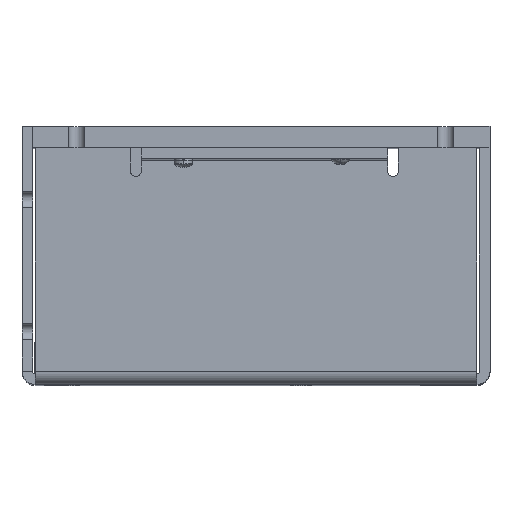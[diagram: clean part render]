
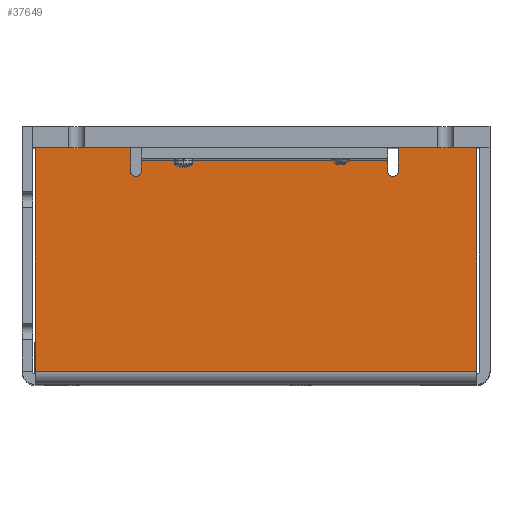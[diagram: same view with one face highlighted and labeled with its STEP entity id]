
A CAD part, top view. The second image highlights one B-rep face of the part: STEP entity #37649.
In plain terms, the highlighted planar face has unit normal (0, 0, 1).
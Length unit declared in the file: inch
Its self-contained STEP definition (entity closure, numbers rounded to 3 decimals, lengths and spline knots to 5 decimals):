
#34450=DIRECTION('',(0.,-1.,0.));
#34451=VECTOR('',#34450,2.652);
#34452=CARTESIAN_POINT('',(5.232,1.9951,7.29));
#34453=LINE('',#34452,#34451);
#34479=DIRECTION('',(-1.,0.,0.));
#34480=VECTOR('',#34479,5.237);
#34481=CARTESIAN_POINT('',(5.232,-0.6569,7.29));
#34482=LINE('',#34481,#34480);
#34516=DIRECTION('',(0.,1.,0.));
#34517=VECTOR('',#34516,2.652);
#34518=CARTESIAN_POINT('',(-0.005,-0.6569,7.29));
#34519=LINE('',#34518,#34517);
#34597=DIRECTION('',(1.,0.,0.));
#34598=VECTOR('',#34597,1.133);
#34599=CARTESIAN_POINT('',(-0.005,1.9951,7.29));
#34600=LINE('',#34599,#34598);
#34662=DIRECTION('',(1.,0.,0.));
#34663=VECTOR('',#34662,2.922);
#34664=CARTESIAN_POINT('',(1.253,1.8401,7.29));
#34665=LINE('',#34664,#34663);
#34676=DIRECTION('',(0.,1.,0.));
#34677=VECTOR('',#34676,0.28);
#34678=CARTESIAN_POINT('',(1.128,1.7151,7.29));
#34679=LINE('',#34678,#34677);
#34683=CARTESIAN_POINT('',(1.1905,1.7151,7.29));
#34684=DIRECTION('',(0.,0.,-1.));
#34685=DIRECTION('',(1.,0.,0.));
#34686=AXIS2_PLACEMENT_3D('',#34683,#34684,#34685);
#34691=DIRECTION('',(0.,-1.,0.));
#34692=VECTOR('',#34691,0.125);
#34693=CARTESIAN_POINT('',(1.253,1.8401,7.29));
#34694=LINE('',#34693,#34692);
#34698=DIRECTION('',(0.,1.,0.));
#34699=VECTOR('',#34698,0.125);
#34700=CARTESIAN_POINT('',(4.175,1.7151,7.29));
#34701=LINE('',#34700,#34699);
#34705=CARTESIAN_POINT('',(4.2375,1.7151,7.29));
#34706=DIRECTION('',(0.,0.,-1.));
#34707=DIRECTION('',(1.,0.,0.));
#34708=AXIS2_PLACEMENT_3D('',#34705,#34706,#34707);
#34713=DIRECTION('',(0.,-1.,0.));
#34714=VECTOR('',#34713,0.28);
#34715=CARTESIAN_POINT('',(4.3,1.9951,7.29));
#34716=LINE('',#34715,#34714);
#34762=DIRECTION('',(1.,0.,0.));
#34763=VECTOR('',#34762,0.932);
#34764=CARTESIAN_POINT('',(4.3,1.9951,7.29));
#34765=LINE('',#34764,#34763);
#36224=CARTESIAN_POINT('',(1.128,1.9951,7.29));
#36226=VERTEX_POINT('',#36224);
#36278=CARTESIAN_POINT('',(1.128,1.7151,7.29));
#36280=VERTEX_POINT('',#36278);
#36299=CARTESIAN_POINT('',(4.3,1.7151,7.29));
#36300=VERTEX_POINT('',#36299);
#36301=CARTESIAN_POINT('',(4.3,1.9951,7.29));
#36302=VERTEX_POINT('',#36301);
#36343=CARTESIAN_POINT('',(-0.005,1.9951,7.29));
#36345=VERTEX_POINT('',#36343);
#36389=CARTESIAN_POINT('',(1.253,1.8401,7.29));
#36390=CARTESIAN_POINT('',(4.175,1.8401,7.29));
#36391=VERTEX_POINT('',#36389);
#36392=VERTEX_POINT('',#36390);
#36415=CARTESIAN_POINT('',(5.232,1.9951,7.29));
#36416=VERTEX_POINT('',#36415);
#36516=CARTESIAN_POINT('',(4.175,1.7151,7.29));
#36518=VERTEX_POINT('',#36516);
#36637=CARTESIAN_POINT('',(-0.005,-0.6569,7.29));
#36638=VERTEX_POINT('',#36637);
#36645=CARTESIAN_POINT('',(5.232,-0.6569,7.29));
#36646=VERTEX_POINT('',#36645);
#36647=CARTESIAN_POINT('',(1.253,1.7151,7.29));
#36648=VERTEX_POINT('',#36647);
#37626=CARTESIAN_POINT('',(5.387,-0.6869,7.29));
#37627=DIRECTION('',(0.,0.,-1.));
#37628=DIRECTION('',(0.,1.,0.));
#37629=AXIS2_PLACEMENT_3D('',#37626,#37627,#37628);
#37630=PLANE('',#37629);
#37631=ORIENTED_EDGE('',*,*,#37526,.F.);
#37632=ORIENTED_EDGE('',*,*,#37547,.F.);
#37633=ORIENTED_EDGE('',*,*,#37569,.F.);
#37634=ORIENTED_EDGE('',*,*,#37609,.T.);
#37636=ORIENTED_EDGE('',*,*,#37635,.F.);
#37638=ORIENTED_EDGE('',*,*,#37637,.F.);
#37640=ORIENTED_EDGE('',*,*,#37639,.F.);
#37642=ORIENTED_EDGE('',*,*,#37641,.T.);
#37643=ORIENTED_EDGE('',*,*,#37372,.T.);
#37644=ORIENTED_EDGE('',*,*,#37398,.T.);
#37645=ORIENTED_EDGE('',*,*,#37425,.T.);
#37646=ORIENTED_EDGE('',*,*,#37504,.T.);
#37647=EDGE_LOOP('',(#37631,#37632,#37633,#37634,#37636,#37638,#37640,#37642,
#37643,#37644,#37645,#37646));
#37648=FACE_OUTER_BOUND('',#37647,.F.);
#34687=CIRCLE('',#34686,0.0625);
#34709=CIRCLE('',#34708,0.0625);
#37372=EDGE_CURVE('',#36416,#36646,#34453,.T.);
#37398=EDGE_CURVE('',#36646,#36638,#34482,.T.);
#37425=EDGE_CURVE('',#36638,#36345,#34519,.T.);
#37504=EDGE_CURVE('',#36345,#36226,#34600,.T.);
#37526=EDGE_CURVE('',#36280,#36226,#34679,.T.);
#37547=EDGE_CURVE('',#36648,#36280,#34687,.T.);
#37569=EDGE_CURVE('',#36391,#36648,#34694,.T.);
#37609=EDGE_CURVE('',#36391,#36392,#34665,.T.);
#37635=EDGE_CURVE('',#36518,#36392,#34701,.T.);
#37637=EDGE_CURVE('',#36300,#36518,#34709,.T.);
#37639=EDGE_CURVE('',#36302,#36300,#34716,.T.);
#37641=EDGE_CURVE('',#36302,#36416,#34765,.T.);
#37649=ADVANCED_FACE('',(#37648),#37630,.F.);
